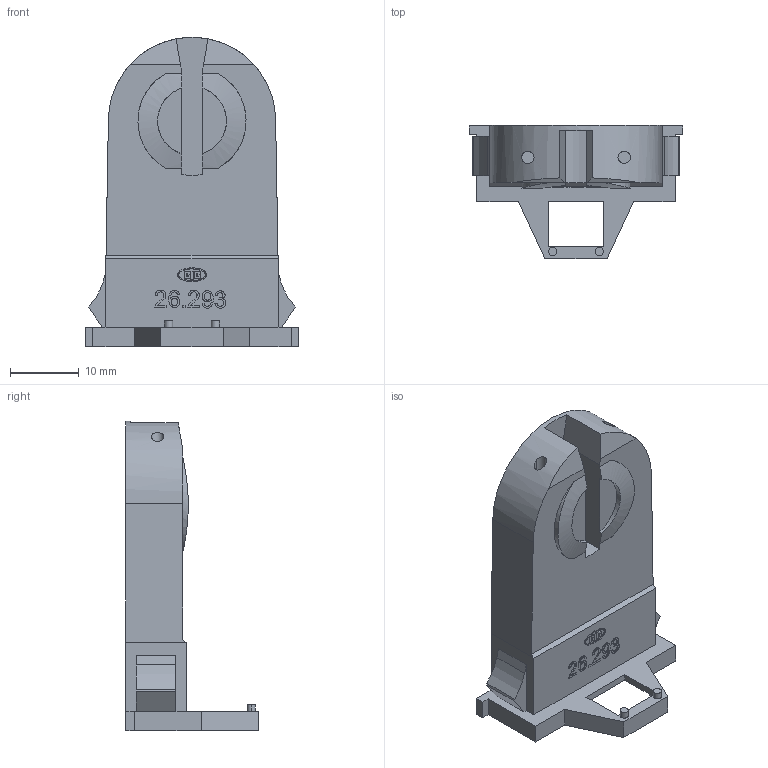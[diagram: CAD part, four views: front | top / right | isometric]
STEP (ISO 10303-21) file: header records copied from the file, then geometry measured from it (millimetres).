
FILE_DESCRIPTION(('CAx-IF Rec.Pracs.---Model Styling and Organization---1.2---2011-12-15','CAx-IF Rec.Pracs.---Geometric and Assembly Validation Properties---4.1---2014-06-16','CAx-IF Rec.Pracs.---PMI Polyline Presentation---2.0---2013-05-24'),'2;1');
FILE_NAME('00AYN0RY03.stp','2017-11-20T12:40:00+01:00',(''),(''),'STEP Interface 4.1 by CT CoreTechnologie','3D_Evolution4.1 by CT CoreTechnologie','');
FILE_SCHEMA(('AP203_CONFIGURATION_CONTROLLED_3D_DESIGN_OF_MECHANICAL_PARTS_AND_ASSEMBLIES_MIM_LF'));
Length unit declared in the file: millimetre
Products named in the file (1): 00A-N0R-03
Bounding box: 31 x 19.3 x 44.95 mm (x, y, z)
Volume: 8312.2 mm3; surface area: 4334.3 mm2
Topology: 1 solids, 1 shells, 220 faces, 594 edges, 400 vertices
Faces by surface type: plane 133, cylinder 76, bspline 11
Entity records: 9156 total; most frequent: CARTESIAN_POINT 1765, ORIENTED_EDGE 1188, DIRECTION 1137, EDGE_CURVE 594, VECTOR 409, LINE 409, VERTEX_POINT 400, AXIS2_PLACEMENT_3D 364
